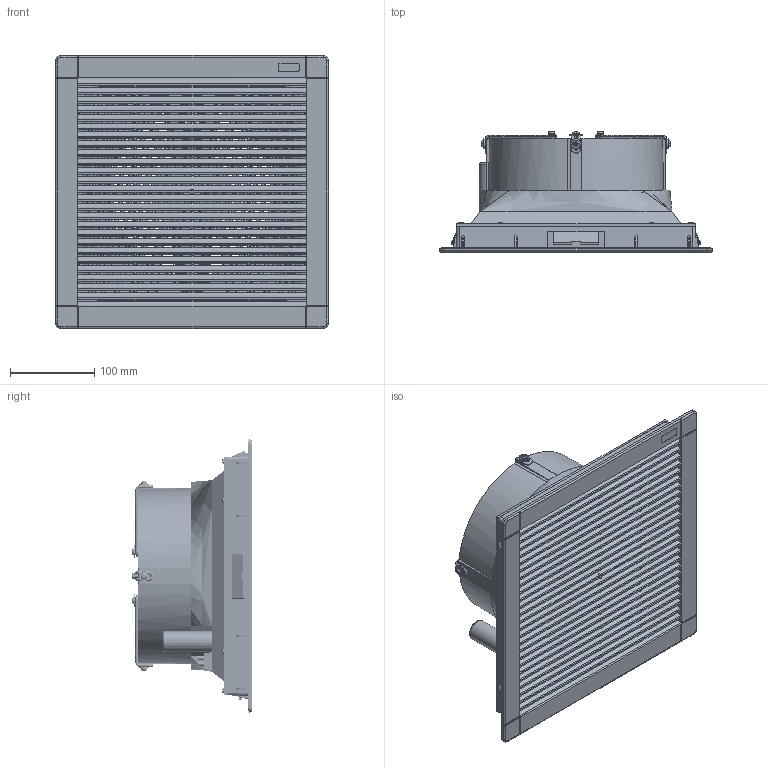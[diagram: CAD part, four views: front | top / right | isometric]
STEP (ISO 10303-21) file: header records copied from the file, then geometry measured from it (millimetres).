
FILE_DESCRIPTION(/* description */ (''),/* implementation_level */ '2;1');
FILE_NAME(/* name */ 'ALFA3500BPB',/* time_stamp */ '2016-08-03T11:23:25+02:00',/* author */ (''),/* organization */ (''),/* preprocessor_version */ 'ST-DEVELOPER v10',/* originating_system */ '',/* authorisation */ '');
FILE_SCHEMA (('CONFIG_CONTROL_DESIGN'));
Products named in the file (1): 1
Bounding box: 325 x 143.85 x 325 mm (x, y, z)
Volume: 706426.8 mm3; surface area: 833751.3 mm2
Topology: 65 solids, 66 shells, 4671 faces, 13378 edges, 8502 vertices
Faces by surface type: bspline 2954, plane 1717
Entity records: 193856 total; most frequent: CARTESIAN_POINT 117715, ORIENTED_EDGE 26542, EDGE_CURVE 13277, VERTEX_POINT 8501, B_SPLINE_CURVE_WITH_KNOTS 7353, EDGE_LOOP 5120, ADVANCED_FACE 4671, FACE_OUTER_BOUND 4671
